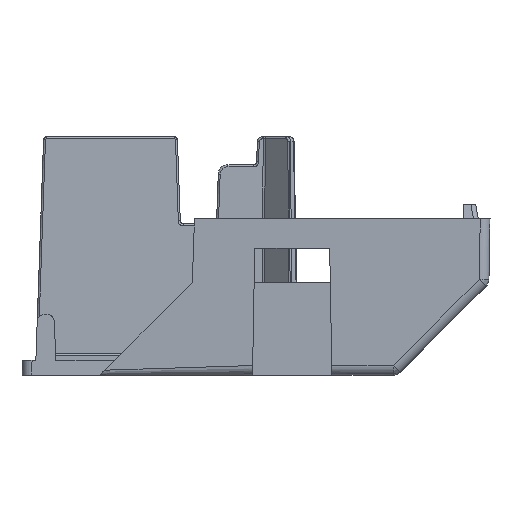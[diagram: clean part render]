
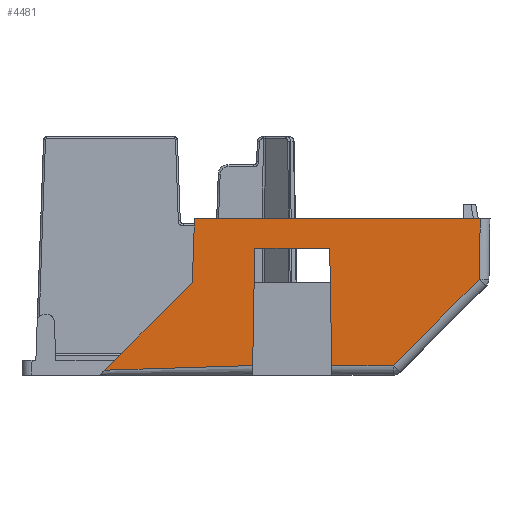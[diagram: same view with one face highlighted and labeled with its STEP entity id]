
A CAD part, front view. The second image highlights one B-rep face of the part: STEP entity #4481.
In plain terms, the highlighted planar face has unit normal (0, -1, -0.018).
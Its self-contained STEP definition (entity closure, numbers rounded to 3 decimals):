
#9 = DIRECTION ( 'NONE',  ( 0.017, 0.017, -1. ) ) ;
#44 = EDGE_CURVE ( 'NONE', #5680, #10058, #6587, .T. ) ;
#261 = CARTESIAN_POINT ( 'NONE',  ( -12.186, -29.53, -12.443 ) ) ;
#581 = VECTOR ( 'NONE', #5360, 1000. ) ;
#584 = DIRECTION ( 'NONE',  ( -0.707, 0.012, -0.707 ) ) ;
#591 = EDGE_LOOP ( 'NONE', ( #6316, #9625, #3639, #5235, #6137, #3537, #8714, #9753, #9142, #9200 ) ) ;
#606 = CARTESIAN_POINT ( 'NONE',  ( -3.002, -29.8, 3.05 ) ) ;
#1194 = CARTESIAN_POINT ( 'NONE',  ( -3.23, -29.686, -3.487 ) ) ;
#1226 = VERTEX_POINT ( 'NONE', #2133 ) ;
#1253 = EDGE_CURVE ( 'NONE', #6286, #1226, #5583, .T. ) ;
#1346 = DIRECTION ( 'NONE',  ( 0.017, -0.017, 1. ) ) ;
#1352 = CARTESIAN_POINT ( 'NONE',  ( 499000., -303.268, 15670.037 ) ) ;
#1378 = DIRECTION ( 'NONE',  ( -1., 0.001, -0.031 ) ) ;
#1404 = EDGE_CURVE ( 'NONE', #6483, #4544, #9801, .T. ) ;
#1546 = PLANE ( 'NONE',  #5392 ) ;
#1583 = EDGE_CURVE ( 'NONE', #6483, #6286, #2361, .T. ) ;
#1596 = CARTESIAN_POINT ( 'NONE',  ( 10.843, -29.748, 0.05 ) ) ;
#1720 = CARTESIAN_POINT ( 'NONE',  ( 10.843, -29.748, 0.05 ) ) ;
#1896 = EDGE_CURVE ( 'NONE', #3017, #8275, #9790, .T. ) ;
#2012 = VECTOR ( 'NONE', #8732, 1000. ) ;
#2133 = CARTESIAN_POINT ( 'NONE',  ( 26.26, -29.8, 3.05 ) ) ;
#2138 = CARTESIAN_POINT ( 'NONE',  ( 26.152, -29.692, -3.162 ) ) ;
#2315 = DIRECTION ( 'NONE',  ( 0., 0.017, -1. ) ) ;
#2361 = LINE ( 'NONE', #2710, #8422 ) ;
#2460 = CARTESIAN_POINT ( 'NONE',  ( 28.325, -29.8, 3.05 ) ) ;
#2710 = CARTESIAN_POINT ( 'NONE',  ( 17.346, -29.538, -11.967 ) ) ;
#2996 = VECTOR ( 'NONE', #8447, 1000. ) ;
#3017 = VERTEX_POINT ( 'NONE', #8874 ) ;
#3220 = CARTESIAN_POINT ( 'NONE',  ( -12.879, -29.538, -11.967 ) ) ;
#3537 = ORIENTED_EDGE ( 'NONE', *, *, #1404, .F. ) ;
#3629 = EDGE_CURVE ( 'NONE', #8275, #4544, #8890, .T. ) ;
#3639 = ORIENTED_EDGE ( 'NONE', *, *, #7534, .T. ) ;
#3862 = CARTESIAN_POINT ( 'NONE',  ( 28.325, -29.8, 3.05 ) ) ;
#3996 = CARTESIAN_POINT ( 'NONE',  ( 11.053, -29.538, -11.967 ) ) ;
#4055 = EDGE_CURVE ( 'NONE', #1226, #5680, #7308, .T. ) ;
#4382 = LINE ( 'NONE', #5254, #8347 ) ;
#4472 = CARTESIAN_POINT ( 'NONE',  ( 26.152, -29.692, -3.162 ) ) ;
#4481 = ADVANCED_FACE ( 'NONE', ( #5942 ), #1546, .T. ) ;
#4544 = VERTEX_POINT ( 'NONE', #3996 ) ;
#4633 = VERTEX_POINT ( 'NONE', #261 ) ;
#4754 = DIRECTION ( 'NONE',  ( 1., 0., 0. ) ) ;
#5235 = ORIENTED_EDGE ( 'NONE', *, *, #1896, .T. ) ;
#5254 = CARTESIAN_POINT ( 'NONE',  ( 2.956, -29.538, -11.967 ) ) ;
#5360 = DIRECTION ( 'NONE',  ( -0.035, 0.017, -0.999 ) ) ;
#5392 = AXIS2_PLACEMENT_3D ( 'NONE', #3862, #7047, #2315 ) ;
#5434 = CARTESIAN_POINT ( 'NONE',  ( -3.002, -29.8, 3.05 ) ) ;
#5456 = VECTOR ( 'NONE', #7194, 1000. ) ;
#5583 = LINE ( 'NONE', #4472, #2996 ) ;
#5680 = VERTEX_POINT ( 'NONE', #606 ) ;
#5942 = FACE_OUTER_BOUND ( 'NONE', #591, .T. ) ;
#5998 = VECTOR ( 'NONE', #584, 1000. ) ;
#6008 = LINE ( 'NONE', #1352, #7619 ) ;
#6137 = ORIENTED_EDGE ( 'NONE', *, *, #3629, .T. ) ;
#6286 = VERTEX_POINT ( 'NONE', #2138 ) ;
#6316 = ORIENTED_EDGE ( 'NONE', *, *, #7567, .T. ) ;
#6483 = VERTEX_POINT ( 'NONE', #6565 ) ;
#6565 = CARTESIAN_POINT ( 'NONE',  ( 17.346, -29.538, -11.967 ) ) ;
#6587 = LINE ( 'NONE', #5434, #581 ) ;
#6664 = DIRECTION ( 'NONE',  ( 0.707, -0.012, 0.707 ) ) ;
#6824 = VECTOR ( 'NONE', #9, 1000. ) ;
#7047 = DIRECTION ( 'NONE',  ( 0., -1., -0.017 ) ) ;
#7070 = EDGE_CURVE ( 'NONE', #8208, #4633, #6008, .T. ) ;
#7194 = DIRECTION ( 'NONE',  ( -1., 0., 0. ) ) ;
#7308 = LINE ( 'NONE', #2460, #5456 ) ;
#7534 = EDGE_CURVE ( 'NONE', #8208, #3017, #4382, .T. ) ;
#7567 = EDGE_CURVE ( 'NONE', #10058, #4633, #10076, .T. ) ;
#7619 = VECTOR ( 'NONE', #1378, 1000. ) ;
#7805 = VECTOR ( 'NONE', #4754, 1000. ) ;
#8208 = VERTEX_POINT ( 'NONE', #8724 ) ;
#8275 = VERTEX_POINT ( 'NONE', #1720 ) ;
#8347 = VECTOR ( 'NONE', #1346, 1000. ) ;
#8420 = CARTESIAN_POINT ( 'NONE',  ( -3.23, -29.686, -3.487 ) ) ;
#8422 = VECTOR ( 'NONE', #6664, 1000. ) ;
#8447 = DIRECTION ( 'NONE',  ( 0.017, -0.017, 1. ) ) ;
#8714 = ORIENTED_EDGE ( 'NONE', *, *, #1583, .T. ) ;
#8724 = CARTESIAN_POINT ( 'NONE',  ( 2.956, -29.538, -11.967 ) ) ;
#8732 = DIRECTION ( 'NONE',  ( -1., 0., 0. ) ) ;
#8874 = CARTESIAN_POINT ( 'NONE',  ( 3.165, -29.748, 0.05 ) ) ;
#8890 = LINE ( 'NONE', #1596, #6824 ) ;
#9142 = ORIENTED_EDGE ( 'NONE', *, *, #4055, .T. ) ;
#9200 = ORIENTED_EDGE ( 'NONE', *, *, #44, .T. ) ;
#9625 = ORIENTED_EDGE ( 'NONE', *, *, #7070, .F. ) ;
#9753 = ORIENTED_EDGE ( 'NONE', *, *, #1253, .T. ) ;
#9790 = LINE ( 'NONE', #10078, #7805 ) ;
#9801 = LINE ( 'NONE', #3220, #2012 ) ;
#10058 = VERTEX_POINT ( 'NONE', #1194 ) ;
#10076 = LINE ( 'NONE', #8420, #5998 ) ;
#10078 = CARTESIAN_POINT ( 'NONE',  ( 28.325, -29.748, 0.05 ) ) ;
